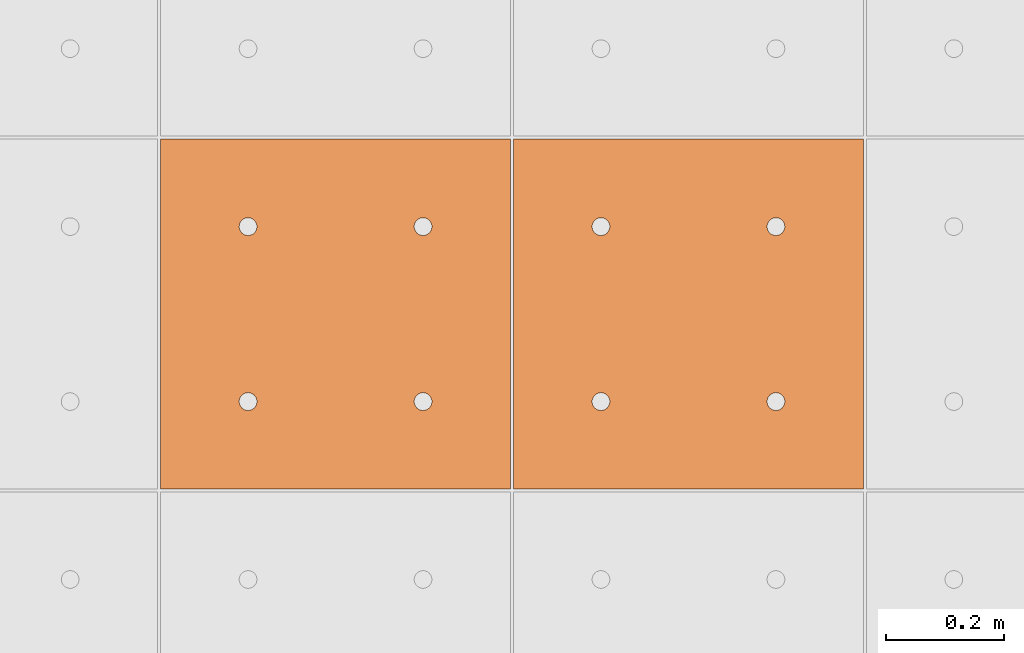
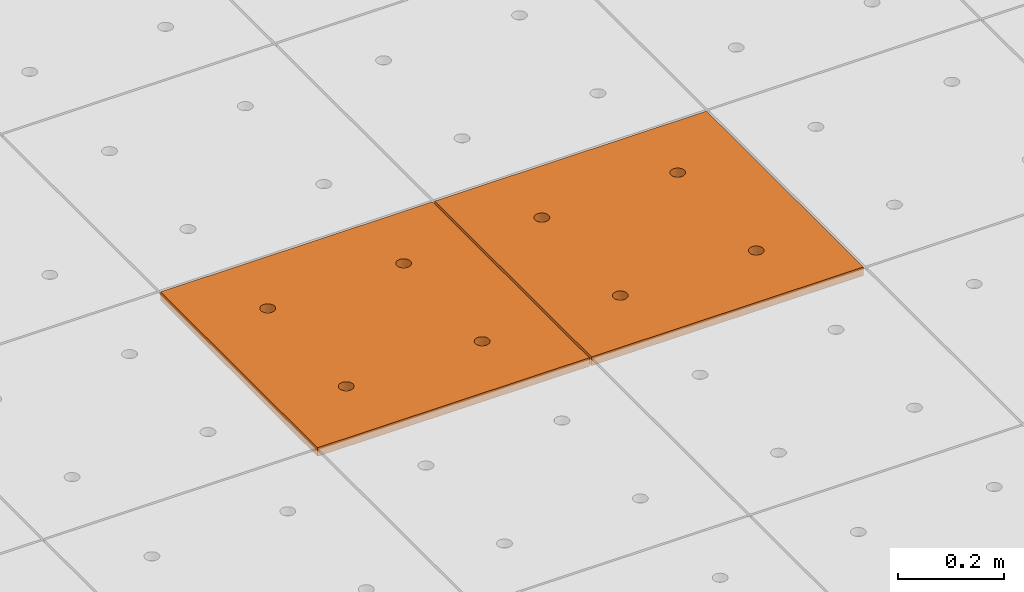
# One storey, part 303 of 338: 2 proxies, 1 element without a shape of its own.
"""IFC2X3 building model written with IfcOpenShell, lengths in millimetres."""

import ifcopenshell
import ifcopenshell.guid

model = None  # the IFC model being written
_history = None  # IfcOwnerHistory: only IFC2X3 demands one
_inside = {}  # id of a spatial element -> (the spatial element, [elements in it])
_under = {}  # id of a project, library or spatial element -> (it, [spatial elements below it])
_declared = {}  # id of a project -> (the project, [libraries it declares])
_typed = {}  # id of a type object -> (the type object, [elements of that type])
_made_of = {}  # id of a material, layer set ... -> (it, [elements and type objects made of it])


def new_model(schema):
    """Start an empty IFC model of exactly this schema.

    Asked for "IFC4X3", IfcOpenShell would pick the latest addendum, in which some entities
    have other attributes; the version numbers below select the first issue.
    IFC2X3 requires an IfcOwnerHistory on every rooted entity: one is made here for all.
    """
    global model, _history
    if schema == "IFC4X3":
        model = ifcopenshell.file(schema_version=(4, 3, 0, 0))
    else:
        model = ifcopenshell.file(schema=schema)
    _inside.clear()
    _under.clear()
    _declared.clear()
    _typed.clear()
    _made_of.clear()
    _history = None
    if model.schema == "IFC2X3":
        org = make("IfcOrganization", Name="unknown")
        user = make(
            "IfcPersonAndOrganization",
            ThePerson=make("IfcPerson", FamilyName="unknown"),
            TheOrganization=org,
        )
        app = make(
            "IfcApplication",
            ApplicationDeveloper=org,
            Version="unknown",
            ApplicationFullName="unknown",
            ApplicationIdentifier="unknown",
        )
        _history = make(
            "IfcOwnerHistory",
            OwningUser=user,
            OwningApplication=app,
            ChangeAction="ADDED",
            CreationDate=0,
        )
    return model


def make(cls, **values):
    """One entity of the class cls with the attributes given. An attribute that is None is left unset."""
    return model.create_entity(
        cls, **{name: value for name, value in values.items() if value is not None}
    )


def entity(cls, *values):
    """Any entity or typed value of the class cls, its attributes in the order of the schema. None: left unset."""
    e = model.create_entity(cls)
    for i, value in enumerate(values):
        if value is not None:
            e[i] = value
    return e


def rooted(cls, **values):
    """An entity with a GlobalId (a new one), such as an element, a storey or a relation."""
    return make(cls, GlobalId=ifcopenshell.guid.new(), OwnerHistory=_history, **values)


def si_unit(unit_type, name, prefix=None):
    """IfcSIUnit, for example si_unit("LENGTHUNIT", "METRE", prefix="MILLI")."""
    return make("IfcSIUnit", UnitType=unit_type, Prefix=prefix, Name=name)


def converted_unit(unit_type, name, factor, base, dimensions=None, offset=None):
    """IfcConversionBasedUnit, such as the inch: factor (a typed value) times the base unit."""
    return make(
        "IfcConversionBasedUnit"
        if offset is None
        else "IfcConversionBasedUnitWithOffset",
        ConversionOffset=offset,
        Dimensions=None
        if dimensions is None
        else entity("IfcDimensionalExponents", *dimensions),
        UnitType=unit_type,
        Name=name,
        ConversionFactor=make(
            "IfcMeasureWithUnit", ValueComponent=factor, UnitComponent=base
        ),
    )


def derived_unit(unit_type, elements):
    """IfcDerivedUnit: a product of units, each with its exponent."""
    return make(
        "IfcDerivedUnit",
        Elements=[
            make("IfcDerivedUnitElement", Unit=unit, Exponent=power)
            for unit, power in elements
        ],
        UnitType=unit_type,
    )


def money_unit(currency):
    """IfcMonetaryUnit."""
    return make("IfcMonetaryUnit", Currency=currency)


def assignment(units):
    """IfcUnitAssignment: the units of a project."""
    return None if units is None else make("IfcUnitAssignment", Units=units)


def point(xyz):
    """IfcCartesianPoint."""
    return None if xyz is None else make("IfcCartesianPoint", Coordinates=xyz)


def direction(xyz):
    """IfcDirection."""
    return None if xyz is None else make("IfcDirection", DirectionRatios=xyz)


def frame(location, z_axis=None, x_axis=None):
    """IfcAxis2Placement3D, a coordinate frame: its origin and axes. An axis left out is left unset."""
    return make(
        "IfcAxis2Placement3D",
        Location=point(location),
        Axis=direction(z_axis),
        RefDirection=direction(x_axis),
    )


def origin_with_axes():
    """The frame at (0, 0, 0) with the z axis (0, 0, 1) and the x axis (1, 0, 0) written out."""
    return frame((0.0, 0.0, 0.0), z_axis=(0.0, 0.0, 1.0), x_axis=(1.0, 0.0, 0.0))


def place(relative_to, where):
    """IfcLocalPlacement: puts the frame where relative to a parent placement (None: the world)."""
    return make(
        "IfcLocalPlacement", PlacementRelTo=relative_to, RelativePlacement=where
    )


def context(
    kind, dimensions, precision=None, world=None, true_north=None, identifier=None
):
    """IfcGeometricRepresentationContext, for example the 3D "Model" context."""
    return make(
        "IfcGeometricRepresentationContext",
        ContextIdentifier=identifier,
        ContextType=kind,
        CoordinateSpaceDimension=dimensions,
        Precision=precision,
        WorldCoordinateSystem=world,
        TrueNorth=true_north,
    )


def subcontext(parent, identifier, kind, view, scale=None):
    """IfcGeometricRepresentationSubContext, for example "Body" below "Model"."""
    return make(
        "IfcGeometricRepresentationSubContext",
        ContextIdentifier=identifier,
        ContextType=kind,
        ParentContext=parent,
        TargetScale=scale,
        TargetView=view,
    )


def project(units=None, contexts=None):
    """IfcProject with its units and contexts."""
    return rooted(
        "IfcProject",
        Name="project",
        RepresentationContexts=contexts,
        UnitsInContext=assignment(units),
    )


def spatial(cls, under=None, at=None, **own):
    """A site, building, storey or space (cls), placed at a placement, below another one or the project."""
    s = rooted(cls, ObjectPlacement=at, **own)
    if under is not None:
        _under.setdefault(under.id(), (under, []))[1].append(s)
    return s


def faces_of(points, faces, orient=None, outer=None):
    """IfcFace entities. A face is a list of loops; a loop is a list of indices into points, from 0.

    orient and outer hold one flag for each loop. By default every Orientation is true, the
    first loop of a face is its IfcFaceOuterBound and the others are IfcFaceBound.
    """
    made = []
    for i, loops in enumerate(faces):
        bounds = []
        for j, loop in enumerate(loops):
            is_outer = j == 0 if outer is None else outer[i][j]
            bounds.append(
                make(
                    "IfcFaceOuterBound" if is_outer else "IfcFaceBound",
                    Bound=make("IfcPolyLoop", Polygon=[points[k] for k in loop]),
                    Orientation=True if orient is None else orient[i][j],
                )
            )
        made.append(make("IfcFace", Bounds=bounds))
    return made


def faceted_brep(points, faces, orient=None, outer=None, voids=None):
    """IfcFacetedBrep: a solid bounded by flat faces; with voids (closed shells), ...WithVoids."""
    shared = [point(p) for p in points]
    hull = make("IfcClosedShell", CfsFaces=faces_of(shared, faces, orient, outer))
    if voids is None:
        return make("IfcFacetedBrep", Outer=hull)
    return make(
        "IfcFacetedBrepWithVoids",
        Outer=hull,
        Voids=[
            make(cls, CfsFaces=faces_of(shared, fs, o, b)) for cls, fs, o, b in voids
        ],
    )


def shape(context_of_items, identifier, shape_type, items):
    """IfcShapeRepresentation: the items that make up one representation, for example the "Body"."""
    return make(
        "IfcShapeRepresentation",
        ContextOfItems=context_of_items,
        RepresentationIdentifier=identifier,
        RepresentationType=shape_type,
        Items=items,
    )


def source(mapping_origin, context_of_items, identifier, shape_type, items):
    """IfcRepresentationMap: a shape defined once, which mapped items show again and again."""
    return make(
        "IfcRepresentationMap",
        MappingOrigin=mapping_origin,
        MappedRepresentation=shape(context_of_items, identifier, shape_type, items),
    )


def transform(
    local_origin,
    x_axis=None,
    y_axis=None,
    z_axis=None,
    scale=None,
    scale2=None,
    scale3=None,
    uniform=True,
):
    """IfcCartesianTransformationOperator3D, or its non-uniform kind. x_axis, y_axis, z_axis: its Axis1, 2, 3."""
    if uniform:
        return make(
            "IfcCartesianTransformationOperator3D",
            Axis1=direction(x_axis),
            Axis2=direction(y_axis),
            LocalOrigin=point(local_origin),
            Scale=scale,
            Axis3=direction(z_axis),
        )
    return make(
        "IfcCartesianTransformationOperator3DnonUniform",
        Axis1=direction(x_axis),
        Axis2=direction(y_axis),
        LocalOrigin=point(local_origin),
        Scale=scale,
        Axis3=direction(z_axis),
        Scale2=scale2,
        Scale3=scale3,
    )


def mapped(mapping_source, mapping_target):
    """IfcMappedItem: shows the shape of a source again, moved by a transform."""
    return make(
        "IfcMappedItem", MappingSource=mapping_source, MappingTarget=mapping_target
    )


def material(Name=None, Category=None):
    """IfcMaterial."""
    return make("IfcMaterial", Name=Name, Category=Category)


def made_of(thing, what):
    """Note that an element or type object is made of a material, layer set ...; save() writes the relation."""
    if what is not None:
        _made_of.setdefault(what.id(), (what, []))[1].append(thing)
    return thing


def type_object(cls, material=None, **own):
    """A type object (cls), such as IfcWallType, which elements share."""
    return made_of(rooted(cls, **own), material)


def type_shapes(of_type, sources):
    """Give a type object the sources (RepresentationMaps) that its elements show as mapped items."""
    of_type.RepresentationMaps = sources


def element(
    cls,
    number,
    at=None,
    inside=None,
    cuts=None,
    type_object=None,
    material=None,
    context=None,
    identifier="Body",
    shape_type=None,
    held_by="IfcProductDefinitionShape",
    body=None,
    shapes=None,
    **own,
):
    """One element of the class cls, such as IfcWall. Its Tag is "e" and its number.

    at: its placement. inside: the storey or other place that contains it. cuts: it is an
    opening in that element (IfcRelVoidsElement). A single representation is given by context,
    identifier, shape_type and body (its items); several are given by shapes. held_by: the class
    of the entity that holds the representations. save() writes the other relations.
    """
    e = rooted(cls, Tag="e%d" % number, ObjectPlacement=at, **own)
    if body is not None:
        shapes = [shape(context, identifier, shape_type, body)]
    if shapes is not None:
        e.Representation = make(held_by, Representations=shapes)
    if inside is not None:
        _inside.setdefault(inside.id(), (inside, []))[1].append(e)
    if cuts is not None:
        rooted(
            "IfcRelVoidsElement", RelatingBuildingElement=cuts, RelatedOpeningElement=e
        )
    if type_object is not None:
        _typed.setdefault(type_object.id(), (type_object, []))[1].append(e)
    return made_of(e, material)


def aggregate(whole, parts):
    """IfcRelAggregates: a whole, such as a stair, and the parts it consists of."""
    return rooted("IfcRelAggregates", RelatingObject=whole, RelatedObjects=parts)


def save(model, path):
    """Write the relations noted so far, then the file.

    IfcRelAggregates (storeys below a building ...), IfcRelContainedInSpatialStructure (elements
    in a storey), IfcRelDefinesByType, IfcRelAssociatesMaterial and IfcRelDeclares: one each for
    every whole, place, type object, material and project.
    """
    for whole, parts in _under.values():
        aggregate(whole, parts)
    for where, things in _inside.values():
        rooted(
            "IfcRelContainedInSpatialStructure",
            RelatedElements=things,
            RelatingStructure=where,
        )
    for kind, things in _typed.values():
        rooted("IfcRelDefinesByType", RelatedObjects=things, RelatingType=kind)
    for what, things in _made_of.values():
        rooted("IfcRelAssociatesMaterial", RelatedObjects=things, RelatingMaterial=what)
    for by, libraries in _declared.values():
        rooted("IfcRelDeclares", RelatingContext=by, RelatedDefinitions=libraries)
    model.write(path)


model = new_model("IFC2X3")

# Units and contexts
model_context = context("Model", 3, precision=0.01, world=origin_with_axes(), true_north=direction((0.0, 1.0)))
plan_context = context("Plan", 3, precision=0.01, world=origin_with_axes(), true_north=direction((0.0, 1.0)))
body_context = subcontext(model_context, "Body", "Model", "MODEL_VIEW")
ifc_project = project(units=[si_unit("LENGTHUNIT", "METRE", prefix="MILLI"), si_unit("AREAUNIT", "SQUARE_METRE"), si_unit("VOLUMEUNIT", "CUBIC_METRE"), converted_unit("PLANEANGLEUNIT", "DEGREE", entity("IfcPlaneAngleMeasure", 0.0174532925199), si_unit("PLANEANGLEUNIT", "RADIAN"), dimensions=[0, 0, 0, 0, 0, 0, 0]), money_unit("EUR"), converted_unit("TIMEUNIT", "Year", entity("IfcTimeMeasure", 31556926.0), si_unit("TIMEUNIT", "SECOND"), dimensions=[0, 0, 1, 0, 0, 0, 0]), si_unit("MASSUNIT", "GRAM", prefix="KILO"), si_unit("THERMODYNAMICTEMPERATUREUNIT", "DEGREE_CELSIUS"), si_unit("LUMINOUSINTENSITYUNIT", "LUMEN"), si_unit("ENERGYUNIT", "JOULE", prefix="MEGA"), derived_unit("THERMALCONDUCTANCEUNIT", [(si_unit("POWERUNIT", "WATT"), 1), (si_unit("LENGTHUNIT", "METRE"), -1), (si_unit("THERMODYNAMICTEMPERATUREUNIT", "KELVIN"), -1)]), derived_unit("SPECIFICHEATCAPACITYUNIT", [(si_unit("ENERGYUNIT", "JOULE"), 1), (si_unit("MASSUNIT", "GRAM", prefix="KILO"), -1), (si_unit("THERMODYNAMICTEMPERATUREUNIT", "KELVIN"), -1)]), derived_unit("MASSDENSITYUNIT", [(si_unit("MASSUNIT", "GRAM", prefix="KILO"), 1), (si_unit("VOLUMEUNIT", "CUBIC_METRE"), -1)])], contexts=[model_context, plan_context])

# Site, building, storey
site_placement = place(None, origin_with_axes())
site = spatial("IfcSite", under=ifc_project, at=site_placement, Name="Fortuinstraat Woensdrecht", CompositionType="ELEMENT")
building_placement = place(site_placement, origin_with_axes())
building = spatial("IfcBuilding", under=site, at=building_placement, Name="IKC Fortuna", CompositionType="ELEMENT")
storey_placement = place(building_placement, origin_with_axes())
storey = spatial("IfcBuildingStorey", under=building, at=storey_placement, Name="00 begane grond", CompositionType="ELEMENT", Elevation=0.0)

# Covering, proxies
covering_type = type_object("IfcCoveringType", Name="Curtain Wall Type", PredefinedType="CEILING")
covering_placement = place(storey_placement, frame((24394.3550152, 31482.3495284, 3210.0), z_axis=(0.0, 0.0, 1.0), x_axis=(1.0, 0.0, 0.0)))
covering = element("IfcCovering", 1, at=covering_placement, inside=storey, type_object=covering_type, Name="45_Plafondafwerking_P01", PredefinedType="CEILING")
ifc_material = material(Name="Gipsplaat")
building_element_proxy_type = type_object("IfcBuildingElementProxyType", Name="Main Panel 600 x 600 x 20", PredefinedType="NOTDEFINED")
shared_shape = source(origin_with_axes(), body_context, "Body", "Brep", [
    faceted_brep([(2.49999999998, 2.49999999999, -10.0), (300.0, 2.49999999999, -10.0), (300.0, 2.49999999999, 10.0), (2.49999999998, 2.49999999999, 10.0), (2.49999999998, 300.0, -10.0), (2.49999999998, 597.5, -10.0), (300.0, 597.5, -10.0), (597.5, 597.5, -10.0), (597.5, 300.0, -10.0), (597.5, 2.49999999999, -10.0), (166.25, 450.06232995, -10.0), (165.79423259, 452.64711538, -10.0), (164.896546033, 455.11348892, -10.0), (163.58421608, 457.38651108, -10.0), (161.897117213, 459.39711721, -10.0), (159.886511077, 461.08421608, -10.0), (157.613488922, 462.39654603, -10.0), (155.147115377, 463.29423259, -10.0), (152.562329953, 463.75, -10.0), (149.937670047, 463.75, -10.0), (147.352884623, 463.29423259, -10.0), (144.886511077, 462.39654603, -10.0), (142.613488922, 461.08421608, -10.0), (140.602882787, 459.39711721, -10.0), (138.91578392, 457.38651108, -10.0), (137.603453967, 455.11348892, -10.0), (136.705767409, 452.64711538, -10.0), (136.25, 450.06232995, -10.0), (136.25, 448.75, -10.0), (136.25, 447.43767005, -10.0), (136.705767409, 444.85288462, -10.0), (137.603453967, 442.38651108, -10.0), (138.91578392, 440.11348892, -10.0), (140.602882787, 438.10288279, -10.0), (142.613488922, 436.41578392, -10.0), (144.886511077, 435.10345397, -10.0), (147.352884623, 434.20576741, -10.0), (149.937670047, 433.75, -10.0), (152.562329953, 433.75, -10.0), (155.147115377, 434.20576741, -10.0), (157.613488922, 435.10345397, -10.0), (159.886511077, 436.41578392, -10.0), (161.897117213, 438.10288279, -10.0), (163.58421608, 440.11348892, -10.0), (164.896546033, 442.38651108, -10.0), (165.79423259, 444.85288462, -10.0), (166.25, 447.43767005, -10.0), (463.75, 450.06232995, -10.0), (463.29423259, 452.64711538, -10.0), (462.396546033, 455.11348892, -10.0), (461.08421608, 457.38651108, -10.0), (459.397117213, 459.39711721, -10.0), (457.386511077, 461.08421608, -10.0), (455.113488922, 462.39654603, -10.0), (452.647115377, 463.29423259, -10.0), (450.062329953, 463.75, -10.0), (447.437670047, 463.75, -10.0), (444.852884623, 463.29423259, -10.0), (442.386511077, 462.39654603, -10.0), (440.113488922, 461.08421608, -10.0), (438.102882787, 459.39711721, -10.0), (436.41578392, 457.38651108, -10.0), (435.103453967, 455.11348892, -10.0), (434.205767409, 452.64711538, -10.0), (433.75, 450.06232995, -10.0), (433.75, 448.75, -10.0), (433.75, 447.43767005, -10.0), (434.205767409, 444.85288462, -10.0), (435.103453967, 442.38651108, -10.0), (436.41578392, 440.11348892, -10.0), (438.102882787, 438.10288279, -10.0), (440.113488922, 436.41578392, -10.0), (442.386511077, 435.10345397, -10.0), (444.852884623, 434.20576741, -10.0), (447.437670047, 433.75, -10.0), (450.062329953, 433.75, -10.0), (452.647115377, 434.20576741, -10.0), (455.113488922, 435.10345397, -10.0), (457.386511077, 436.41578392, -10.0), (459.397117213, 438.10288279, -10.0), (461.08421608, 440.11348892, -10.0), (462.396546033, 442.38651108, -10.0), (463.29423259, 444.85288462, -10.0), (463.75, 447.43767005, -10.0), (463.75, 152.56232995, -10.0), (463.29423259, 155.14711538, -10.0), (462.396546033, 157.61348892, -10.0), (461.08421608, 159.88651108, -10.0), (459.397117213, 161.89711721, -10.0), (457.386511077, 163.58421608, -10.0), (455.113488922, 164.89654603, -10.0), (452.647115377, 165.79423259, -10.0), (450.062329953, 166.25, -10.0), (447.437670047, 166.25, -10.0), (444.852884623, 165.79423259, -10.0), (442.386511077, 164.89654603, -10.0), (440.113488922, 163.58421608, -10.0), (438.102882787, 161.89711721, -10.0), (436.41578392, 159.88651108, -10.0), (435.103453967, 157.61348892, -10.0), (434.205767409, 155.14711538, -10.0), (433.75, 152.56232995, -10.0), (433.75, 151.25, -10.0), (433.75, 149.93767005, -10.0), (434.205767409, 147.35288462, -10.0), (435.103453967, 144.88651108, -10.0), (436.41578392, 142.61348892, -10.0), (438.102882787, 140.60288279, -10.0), (440.113488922, 138.91578392, -10.0), (442.386511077, 137.60345397, -10.0), (444.852884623, 136.70576741, -10.0), (447.437670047, 136.25, -10.0), (450.062329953, 136.25, -10.0), (452.647115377, 136.70576741, -10.0), (455.113488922, 137.60345397, -10.0), (457.386511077, 138.91578392, -10.0), (459.397117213, 140.60288279, -10.0), (461.08421608, 142.61348892, -10.0), (462.396546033, 144.88651108, -10.0), (463.29423259, 147.35288462, -10.0), (463.75, 149.93767005, -10.0), (166.25, 152.56232995, -10.0), (165.79423259, 155.14711538, -10.0), (164.896546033, 157.61348892, -10.0), (163.58421608, 159.88651108, -10.0), (161.897117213, 161.89711721, -10.0), (159.886511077, 163.58421608, -10.0), (157.613488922, 164.89654603, -10.0), (155.147115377, 165.79423259, -10.0), (152.562329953, 166.25, -10.0), (149.937670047, 166.25, -10.0), (147.352884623, 165.79423259, -10.0), (144.886511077, 164.89654603, -10.0), (142.613488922, 163.58421608, -10.0), (140.602882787, 161.89711721, -10.0), (138.91578392, 159.88651108, -10.0), (137.603453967, 157.61348892, -10.0), (136.705767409, 155.14711538, -10.0), (136.25, 152.56232995, -10.0), (136.25, 151.25, -10.0), (136.25, 149.93767005, -10.0), (136.705767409, 147.35288462, -10.0), (137.603453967, 144.88651108, -10.0), (138.91578392, 142.61348892, -10.0), (140.602882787, 140.60288279, -10.0), (142.613488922, 138.91578392, -10.0), (144.886511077, 137.60345397, -10.0), (147.352884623, 136.70576741, -10.0), (149.937670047, 136.25, -10.0), (152.562329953, 136.25, -10.0), (155.147115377, 136.70576741, -10.0), (157.613488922, 137.60345397, -10.0), (159.886511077, 138.91578392, -10.0), (161.897117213, 140.60288279, -10.0), (163.58421608, 142.61348892, -10.0), (164.896546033, 144.88651108, -10.0), (165.79423259, 147.35288462, -10.0), (166.25, 149.93767005, -10.0), (597.5, 2.49999999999, 10.0), (597.5, 300.0, 10.0), (597.5, 597.5, 10.0), (300.0, 597.5, 10.0), (2.49999999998, 597.5, 10.0), (2.49999999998, 300.0, 10.0), (166.25, 450.06232995, 10.0), (166.25, 447.43767005, 10.0), (165.79423259, 444.85288462, 10.0), (164.896546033, 442.38651108, 10.0), (163.58421608, 440.11348892, 10.0), (161.897117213, 438.10288279, 10.0), (159.886511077, 436.41578392, 10.0), (157.613488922, 435.10345397, 10.0), (155.147115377, 434.20576741, 10.0), (152.562329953, 433.75, 10.0), (149.937670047, 433.75, 10.0), (147.352884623, 434.20576741, 10.0), (144.886511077, 435.10345397, 10.0), (142.613488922, 436.41578392, 10.0), (140.602882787, 438.10288279, 10.0), (138.91578392, 440.11348892, 10.0), (137.603453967, 442.38651108, 10.0), (136.705767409, 444.85288462, 10.0), (136.25, 447.43767005, 10.0), (136.25, 448.75, 10.0), (136.25, 450.06232995, 10.0), (136.705767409, 452.64711538, 10.0), (137.603453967, 455.11348892, 10.0), (138.91578392, 457.38651108, 10.0), (140.602882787, 459.39711721, 10.0), (142.613488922, 461.08421608, 10.0), (144.886511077, 462.39654603, 10.0), (147.352884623, 463.29423259, 10.0), (149.937670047, 463.75, 10.0), (152.562329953, 463.75, 10.0), (155.147115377, 463.29423259, 10.0), (157.613488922, 462.39654603, 10.0), (159.886511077, 461.08421608, 10.0), (161.897117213, 459.39711721, 10.0), (163.58421608, 457.38651108, 10.0), (164.896546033, 455.11348892, 10.0), (165.79423259, 452.64711538, 10.0), (463.75, 450.06232995, 10.0), (463.75, 447.43767005, 10.0), (463.29423259, 444.85288462, 10.0), (462.396546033, 442.38651108, 10.0), (461.08421608, 440.11348892, 10.0), (459.397117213, 438.10288279, 10.0), (457.386511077, 436.41578392, 10.0), (455.113488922, 435.10345397, 10.0), (452.647115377, 434.20576741, 10.0), (450.062329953, 433.75, 10.0), (447.437670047, 433.75, 10.0), (444.852884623, 434.20576741, 10.0), (442.386511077, 435.10345397, 10.0), (440.113488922, 436.41578392, 10.0), (438.102882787, 438.10288279, 10.0), (436.41578392, 440.11348892, 10.0), (435.103453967, 442.38651108, 10.0), (434.205767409, 444.85288462, 10.0), (433.75, 447.43767005, 10.0), (433.75, 448.75, 10.0), (433.75, 450.06232995, 10.0), (434.205767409, 452.64711538, 10.0), (435.103453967, 455.11348892, 10.0), (436.41578392, 457.38651108, 10.0), (438.102882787, 459.39711721, 10.0), (440.113488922, 461.08421608, 10.0), (442.386511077, 462.39654603, 10.0), (444.852884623, 463.29423259, 10.0), (447.437670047, 463.75, 10.0), (450.062329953, 463.75, 10.0), (452.647115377, 463.29423259, 10.0), (455.113488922, 462.39654603, 10.0), (457.386511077, 461.08421608, 10.0), (459.397117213, 459.39711721, 10.0), (461.08421608, 457.38651108, 10.0), (462.396546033, 455.11348892, 10.0), (463.29423259, 452.64711538, 10.0), (463.75, 152.56232995, 10.0), (463.75, 149.93767005, 10.0), (463.29423259, 147.35288462, 10.0), (462.396546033, 144.88651108, 10.0), (461.08421608, 142.61348892, 10.0), (459.397117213, 140.60288279, 10.0), (457.386511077, 138.91578392, 10.0), (455.113488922, 137.60345397, 10.0), (452.647115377, 136.70576741, 10.0), (450.062329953, 136.25, 10.0), (447.437670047, 136.25, 10.0), (444.852884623, 136.70576741, 10.0), (442.386511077, 137.60345397, 10.0), (440.113488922, 138.91578392, 10.0), (438.102882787, 140.60288279, 10.0), (436.41578392, 142.61348892, 10.0), (435.103453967, 144.88651108, 10.0), (434.205767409, 147.35288462, 10.0), (433.75, 149.93767005, 10.0), (433.75, 151.25, 10.0), (433.75, 152.56232995, 10.0), (434.205767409, 155.14711538, 10.0), (435.103453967, 157.61348892, 10.0), (436.41578392, 159.88651108, 10.0), (438.102882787, 161.89711721, 10.0), (440.113488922, 163.58421608, 10.0), (442.386511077, 164.89654603, 10.0), (444.852884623, 165.79423259, 10.0), (447.437670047, 166.25, 10.0), (450.062329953, 166.25, 10.0), (452.647115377, 165.79423259, 10.0), (455.113488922, 164.89654603, 10.0), (457.386511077, 163.58421608, 10.0), (459.397117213, 161.89711721, 10.0), (461.08421608, 159.88651108, 10.0), (462.396546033, 157.61348892, 10.0), (463.29423259, 155.14711538, 10.0), (166.25, 152.56232995, 10.0), (166.25, 149.93767005, 10.0), (165.79423259, 147.35288462, 10.0), (164.896546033, 144.88651108, 10.0), (163.58421608, 142.61348892, 10.0), (161.897117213, 140.60288279, 10.0), (159.886511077, 138.91578392, 10.0), (157.613488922, 137.60345397, 10.0), (155.147115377, 136.70576741, 10.0), (152.562329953, 136.25, 10.0), (149.937670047, 136.25, 10.0), (147.352884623, 136.70576741, 10.0), (144.886511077, 137.60345397, 10.0), (142.613488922, 138.91578392, 10.0), (140.602882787, 140.60288279, 10.0), (138.91578392, 142.61348892, 10.0), (137.603453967, 144.88651108, 10.0), (136.705767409, 147.35288462, 10.0), (136.25, 149.93767005, 10.0), (136.25, 151.25, 10.0), (136.25, 152.56232995, 10.0), (136.705767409, 155.14711538, 10.0), (137.603453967, 157.61348892, 10.0), (138.91578392, 159.88651108, 10.0), (140.602882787, 161.89711721, 10.0), (142.613488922, 163.58421608, 10.0), (144.886511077, 164.89654603, 10.0), (147.352884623, 165.79423259, 10.0), (149.937670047, 166.25, 10.0), (152.562329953, 166.25, 10.0), (155.147115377, 165.79423259, 10.0), (157.613488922, 164.89654603, 10.0), (159.886511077, 163.58421608, 10.0), (161.897117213, 161.89711721, 10.0), (163.58421608, 159.88651108, 10.0), (164.896546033, 157.61348892, 10.0), (165.79423259, 155.14711538, 10.0)], [[[0, 1, 2, 3]], [[0, 4, 5, 6, 7, 8, 9, 1], [10, 11, 12, 13, 14, 15, 16, 17, 18, 19, 20, 21, 22, 23, 24, 25, 26, 27, 28, 29, 30, 31, 32, 33, 34, 35, 36, 37, 38, 39, 40, 41, 42, 43, 44, 45, 46], [47, 48, 49, 50, 51, 52, 53, 54, 55, 56, 57, 58, 59, 60, 61, 62, 63, 64, 65, 66, 67, 68, 69, 70, 71, 72, 73, 74, 75, 76, 77, 78, 79, 80, 81, 82, 83], [84, 85, 86, 87, 88, 89, 90, 91, 92, 93, 94, 95, 96, 97, 98, 99, 100, 101, 102, 103, 104, 105, 106, 107, 108, 109, 110, 111, 112, 113, 114, 115, 116, 117, 118, 119, 120], [121, 122, 123, 124, 125, 126, 127, 128, 129, 130, 131, 132, 133, 134, 135, 136, 137, 138, 139, 140, 141, 142, 143, 144, 145, 146, 147, 148, 149, 150, 151, 152, 153, 154, 155, 156, 157]], [[1, 9, 158, 2]], [[3, 2, 158, 159, 160, 161, 162, 163], [164, 165, 166, 167, 168, 169, 170, 171, 172, 173, 174, 175, 176, 177, 178, 179, 180, 181, 182, 183, 184, 185, 186, 187, 188, 189, 190, 191, 192, 193, 194, 195, 196, 197, 198, 199, 200], [201, 202, 203, 204, 205, 206, 207, 208, 209, 210, 211, 212, 213, 214, 215, 216, 217, 218, 219, 220, 221, 222, 223, 224, 225, 226, 227, 228, 229, 230, 231, 232, 233, 234, 235, 236, 237], [238, 239, 240, 241, 242, 243, 244, 245, 246, 247, 248, 249, 250, 251, 252, 253, 254, 255, 256, 257, 258, 259, 260, 261, 262, 263, 264, 265, 266, 267, 268, 269, 270, 271, 272, 273, 274], [275, 276, 277, 278, 279, 280, 281, 282, 283, 284, 285, 286, 287, 288, 289, 290, 291, 292, 293, 294, 295, 296, 297, 298, 299, 300, 301, 302, 303, 304, 305, 306, 307, 308, 309, 310, 311]], [[4, 0, 3, 163]], [[5, 4, 163, 162]], [[6, 5, 162, 161]], [[7, 6, 161, 160]], [[8, 7, 160, 159]], [[9, 8, 159, 158]], [[11, 10, 164, 200]], [[12, 11, 200, 199]], [[13, 12, 199, 198]], [[14, 13, 198, 197]], [[15, 14, 197, 196]], [[16, 15, 196, 195]], [[17, 16, 195, 194]], [[18, 17, 194, 193]], [[19, 18, 193, 192]], [[20, 19, 192, 191]], [[21, 20, 191, 190]], [[22, 21, 190, 189]], [[23, 22, 189, 188]], [[24, 23, 188, 187]], [[25, 24, 187, 186]], [[26, 25, 186, 185]], [[27, 26, 185, 184]], [[28, 27, 184, 183]], [[29, 28, 183, 182]], [[30, 29, 182, 181]], [[31, 30, 181, 180]], [[32, 31, 180, 179]], [[33, 32, 179, 178]], [[34, 33, 178, 177]], [[35, 34, 177, 176]], [[36, 35, 176, 175]], [[37, 36, 175, 174]], [[38, 37, 174, 173]], [[39, 38, 173, 172]], [[40, 39, 172, 171]], [[41, 40, 171, 170]], [[42, 41, 170, 169]], [[43, 42, 169, 168]], [[44, 43, 168, 167]], [[45, 44, 167, 166]], [[46, 45, 166, 165]], [[10, 46, 165, 164]], [[48, 47, 201, 237]], [[49, 48, 237, 236]], [[50, 49, 236, 235]], [[51, 50, 235, 234]], [[52, 51, 234, 233]], [[53, 52, 233, 232]], [[54, 53, 232, 231]], [[55, 54, 231, 230]], [[56, 55, 230, 229]], [[57, 56, 229, 228]], [[58, 57, 228, 227]], [[59, 58, 227, 226]], [[60, 59, 226, 225]], [[61, 60, 225, 224]], [[62, 61, 224, 223]], [[63, 62, 223, 222]], [[64, 63, 222, 221]], [[65, 64, 221, 220]], [[66, 65, 220, 219]], [[67, 66, 219, 218]], [[68, 67, 218, 217]], [[69, 68, 217, 216]], [[70, 69, 216, 215]], [[71, 70, 215, 214]], [[72, 71, 214, 213]], [[73, 72, 213, 212]], [[74, 73, 212, 211]], [[75, 74, 211, 210]], [[76, 75, 210, 209]], [[77, 76, 209, 208]], [[78, 77, 208, 207]], [[79, 78, 207, 206]], [[80, 79, 206, 205]], [[81, 80, 205, 204]], [[82, 81, 204, 203]], [[83, 82, 203, 202]], [[47, 83, 202, 201]], [[85, 84, 238, 274]], [[86, 85, 274, 273]], [[87, 86, 273, 272]], [[88, 87, 272, 271]], [[89, 88, 271, 270]], [[90, 89, 270, 269]], [[91, 90, 269, 268]], [[92, 91, 268, 267]], [[93, 92, 267, 266]], [[94, 93, 266, 265]], [[95, 94, 265, 264]], [[96, 95, 264, 263]], [[97, 96, 263, 262]], [[98, 97, 262, 261]], [[99, 98, 261, 260]], [[100, 99, 260, 259]], [[101, 100, 259, 258]], [[102, 101, 258, 257]], [[103, 102, 257, 256]], [[104, 103, 256, 255]], [[105, 104, 255, 254]], [[106, 105, 254, 253]], [[107, 106, 253, 252]], [[108, 107, 252, 251]], [[109, 108, 251, 250]], [[110, 109, 250, 249]], [[111, 110, 249, 248]], [[112, 111, 248, 247]], [[113, 112, 247, 246]], [[114, 113, 246, 245]], [[115, 114, 245, 244]], [[116, 115, 244, 243]], [[117, 116, 243, 242]], [[118, 117, 242, 241]], [[119, 118, 241, 240]], [[120, 119, 240, 239]], [[84, 120, 239, 238]], [[122, 121, 275, 311]], [[123, 122, 311, 310]], [[124, 123, 310, 309]], [[125, 124, 309, 308]], [[126, 125, 308, 307]], [[127, 126, 307, 306]], [[128, 127, 306, 305]], [[129, 128, 305, 304]], [[130, 129, 304, 303]], [[131, 130, 303, 302]], [[132, 131, 302, 301]], [[133, 132, 301, 300]], [[134, 133, 300, 299]], [[135, 134, 299, 298]], [[136, 135, 298, 297]], [[137, 136, 297, 296]], [[138, 137, 296, 295]], [[139, 138, 295, 294]], [[140, 139, 294, 293]], [[141, 140, 293, 292]], [[142, 141, 292, 291]], [[143, 142, 291, 290]], [[144, 143, 290, 289]], [[145, 144, 289, 288]], [[146, 145, 288, 287]], [[147, 146, 287, 286]], [[148, 147, 286, 285]], [[149, 148, 285, 284]], [[150, 149, 284, 283]], [[151, 150, 283, 282]], [[152, 151, 282, 281]], [[153, 152, 281, 280]], [[154, 153, 280, 279]], [[155, 154, 279, 278]], [[156, 155, 278, 277]], [[157, 156, 277, 276]], [[121, 157, 276, 275]]]),
])
type_shapes(building_element_proxy_type, [shared_shape])
proxy_1_placement = place(covering_placement, frame((1200.0, 1200.0, 1.06581410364e-10), z_axis=(0.0, 0.0, 1.0), x_axis=(1.0, 0.0, 0.0)))
proxy_1 = element("IfcBuildingElementProxy", 2, at=proxy_1_placement, type_object=building_element_proxy_type, material=ifc_material, Name="__600x661 Rockfon Krios", context=body_context, shape_type="MappedRepresentation", body=[
    mapped(shared_shape, transform((300.0, 300.0, 0.0), x_axis=(-1.0, 0.0, 0.0), y_axis=(0.0, -1.0, 0.0), z_axis=(0.0, 0.0, 1.0))),
])
proxy_2_placement = place(covering_placement, frame((1800.0, 1200.0, 0.0), z_axis=(0.0, 0.0, 1.0), x_axis=(1.0, 0.0, 0.0)))
proxy_2 = element("IfcBuildingElementProxy", 3, at=proxy_2_placement, type_object=building_element_proxy_type, material=ifc_material, Name="__600x700 Rockfon Krios", context=body_context, shape_type="MappedRepresentation", body=[
    mapped(shared_shape, transform((300.0, 300.0, 0.0), x_axis=(-1.0, 0.0, 0.0), y_axis=(0.0, -1.0, 0.0), z_axis=(0.0, 0.0, 1.0))),
])
aggregate(covering, [proxy_1, proxy_2])

save(model, "model.ifc")
